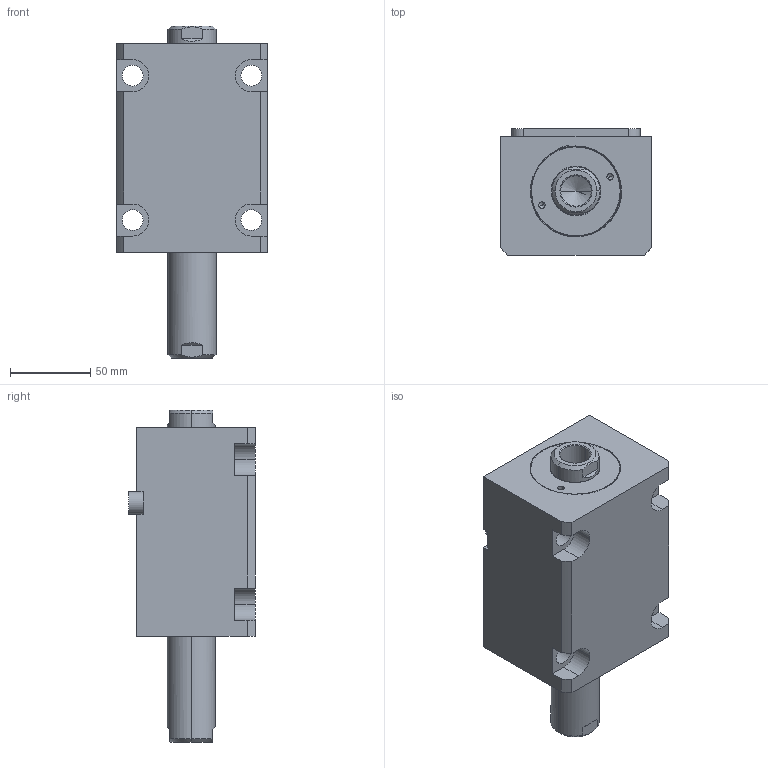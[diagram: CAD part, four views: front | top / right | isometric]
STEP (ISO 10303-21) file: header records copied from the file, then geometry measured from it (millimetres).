
FILE_DESCRIPTION (( 'STEP AP203' ), '1' );
FILE_NAME ('CHTB-LWM50-55N.STEP', '2018-05-22T07:52:21', ( '' ), ( '' ), 'SwSTEP 2.0', 'SolidWorks 2015', '' );
FILE_SCHEMA (( 'CONFIG_CONTROL_DESIGN' ));
Length unit declared in the file: millimetre
Products named in the file (4): CHTB-LWM50-55N; CHTM-SDMA50QG; 活塞杆LWM50-55N; 掛极LWM50-55N
Assembly tree (3 placements, depth 2):
  CHTB-LWM50-55N
    掛极LWM50-55N
    活塞杆LWM50-55N
    CHTM-SDMA50QG
Bounding box: 94 x 79 x 207 mm (x, y, z)
Volume: 817848.7 mm3; surface area: 131054.2 mm2
Topology: 3 solids, 3 shells, 213 faces, 571 edges, 374 vertices
Faces by surface type: cylinder 104, plane 57, cone 22, torus 16, bspline 14
Entity records: 11569 total; most frequent: CARTESIAN_POINT 6050, ORIENTED_EDGE 1126, DIRECTION 1011, EDGE_CURVE 563, AXIS2_PLACEMENT_3D 396, VERTEX_POINT 374, EDGE_LOOP 247, LINE 219
